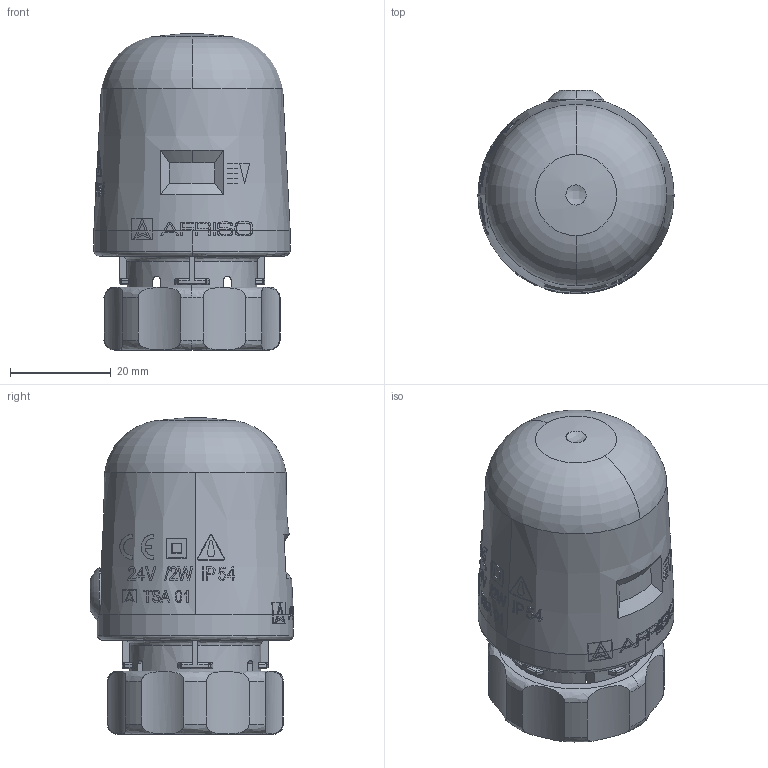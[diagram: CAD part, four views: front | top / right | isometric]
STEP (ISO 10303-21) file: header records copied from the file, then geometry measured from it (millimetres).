
FILE_DESCRIPTION (( 'STEP AP214' ), '1' );
FILE_NAME ('79061_TSA_01.STEP', '2022-04-20T12:17:55', ( '' ), ( '' ), 'SwSTEP 2.0', 'SolidWorks 2021', '' );
FILE_SCHEMA (( 'AUTOMOTIVE_DESIGN' ));
Length unit declared in the file: millimetre
Products named in the file (9): Druckh_X_FClse TSA-01 _UPONOR__05 00 710019; Bedruckung; Kabelt_X_FClle_05 00 710027; Stellantrieb 230V  _Uponor__78510; Haube TSA Blau-transp._05 00 710013; Geh_X_E4useunterteil Standard_05 00 710014; 05 00 710040_Mutter M30x1,5; 79061_TSA_01; Bedruckung Logo
Assembly tree (8 placements, depth 3):
  79061_TSA_01
    Stellantrieb 230V  _Uponor__78510
      Kabelt_X_FClle_05 00 710027
      Haube TSA Blau-transp._05 00 710013
      Druckh_X_FClse TSA-01 _UPONOR__05 00 710019
      Geh_X_E4useunterteil Standard_05 00 710014
      Bedruckung Logo
      Bedruckung
      05 00 710040_Mutter M30x1,5
Bounding box: 39 x 40.49 x 62.86 mm (x, y, z)
Volume: 24786.9 mm3; surface area: 26436.1 mm2
Topology: 42 solids, 42 shells, 1675 faces, 4659 edges, 3054 vertices
Faces by surface type: plane 1005, cylinder 390, cone 151, bspline 123, torus 6
Entity records: 70244 total; most frequent: CARTESIAN_POINT 21283, ORIENTED_EDGE 9306, DIRECTION 6806, EDGE_CURVE 4653, VERTEX_POINT 3053, AXIS2_PLACEMENT_3D 2403, VECTOR 2000, LINE 2000
